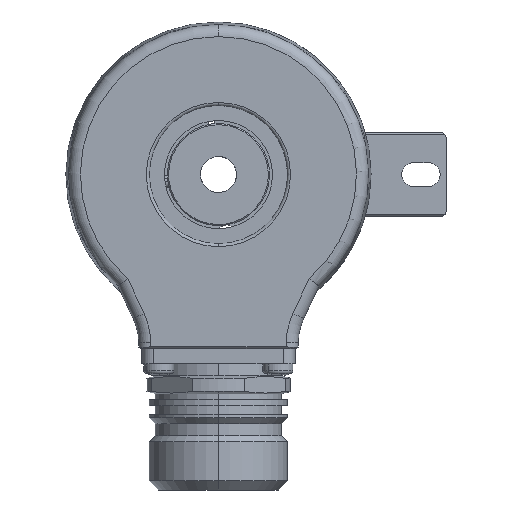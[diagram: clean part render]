
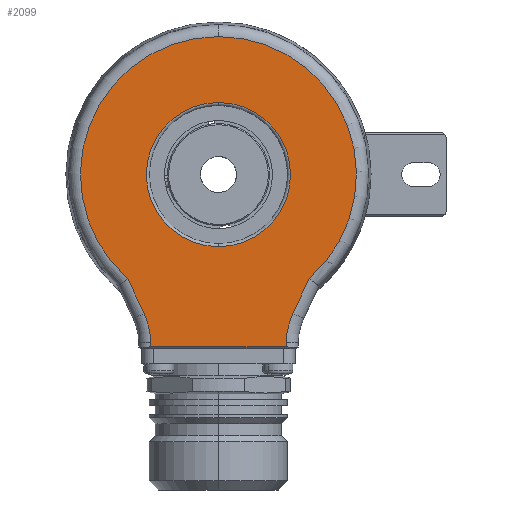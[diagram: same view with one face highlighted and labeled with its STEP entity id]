
A CAD part, left-side view. The second image highlights one B-rep face of the part: STEP entity #2099.
In plain terms, the highlighted planar face has unit normal (-1, 0, 0).
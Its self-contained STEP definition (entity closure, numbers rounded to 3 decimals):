
#1642 = EDGE_CURVE ( 'NONE', #1643, #1644, #14821, .T. ) ;
#1643 = VERTEX_POINT ( 'NONE', #14817 ) ;
#1644 = VERTEX_POINT ( 'NONE', #14816 ) ;
#1673 = VERTEX_POINT ( 'NONE', #14785 ) ;
#1675 = EDGE_CURVE ( 'NONE', #1676, #1673, #14762, .T. ) ;
#1676 = VERTEX_POINT ( 'NONE', #14757 ) ;
#1849 = EDGE_CURVE ( 'NONE', #1993, #1926, #15408, .T. ) ;
#1926 = VERTEX_POINT ( 'NONE', #15583 ) ;
#1930 = EDGE_CURVE ( 'NONE', #1926, #2024, #15581, .T. ) ;
#1947 = VERTEX_POINT ( 'NONE', #15731 ) ;
#1960 = VERTEX_POINT ( 'NONE', #15753 ) ;
#1993 = VERTEX_POINT ( 'NONE', #15738 ) ;
#1995 = EDGE_CURVE ( 'NONE', #1947, #1993, #15777, .T. ) ;
#2014 = VERTEX_POINT ( 'NONE', #15921 ) ;
#2016 = EDGE_CURVE ( 'NONE', #1644, #2014, #15919, .T. ) ;
#2023 = EDGE_CURVE ( 'NONE', #2024, #2068, #15981, .T. ) ;
#2024 = VERTEX_POINT ( 'NONE', #15977 ) ;
#2031 = EDGE_CURVE ( 'NONE', #2068, #1643, #15950, .T. ) ;
#2060 = EDGE_CURVE ( 'NONE', #2014, #1960, #11646, .T. ) ;
#2068 = VERTEX_POINT ( 'NONE', #11540 ) ;
#2097 = EDGE_CURVE ( 'NONE', #1960, #1947, #11582, .T. ) ;
#2099 = ADVANCED_FACE ( 'NONE', ( #11578, #11577 ), #11622, .F. ) ;
#2100 = EDGE_LOOP ( 'NONE', ( #2351, #2352 ) ) ;
#2101 = ORIENTED_EDGE ( 'NONE', *, *, #2016, .T. ) ;
#2102 = ORIENTED_EDGE ( 'NONE', *, *, #2060, .T. ) ;
#2351 = ORIENTED_EDGE ( 'NONE', *, *, #1675, .T. ) ;
#2352 = ORIENTED_EDGE ( 'NONE', *, *, #2353, .T. ) ;
#2353 = EDGE_CURVE ( 'NONE', #1673, #1676, #7255, .T. ) ;
#2354 = EDGE_LOOP ( 'NONE', ( #2377, #2378, #2379, #2373, #2374, #2375, #2376, #2101, #2102 ) ) ;
#2373 = ORIENTED_EDGE ( 'NONE', *, *, #1930, .T. ) ;
#2374 = ORIENTED_EDGE ( 'NONE', *, *, #2023, .T. ) ;
#2375 = ORIENTED_EDGE ( 'NONE', *, *, #2031, .T. ) ;
#2376 = ORIENTED_EDGE ( 'NONE', *, *, #1642, .T. ) ;
#2377 = ORIENTED_EDGE ( 'NONE', *, *, #2097, .T. ) ;
#2378 = ORIENTED_EDGE ( 'NONE', *, *, #1995, .T. ) ;
#2379 = ORIENTED_EDGE ( 'NONE', *, *, #1849, .T. ) ;
#7255 = CIRCLE ( 'NONE', #7299, 12. ) ;
#7296 = DIRECTION ( 'NONE',  ( 0., 0., 1. ) ) ;
#7297 = DIRECTION ( 'NONE',  ( 1., 0., 0. ) ) ;
#7298 = CARTESIAN_POINT ( 'NONE',  ( -21., 0., 0. ) ) ;
#7299 = AXIS2_PLACEMENT_3D ( 'NONE', #7298, #7297, #7296 ) ;
#11540 = CARTESIAN_POINT ( 'NONE',  ( -21., -15.091, -17.32 ) ) ;
#11577 = FACE_OUTER_BOUND ( 'NONE', #2354, .T. ) ;
#11578 = FACE_BOUND ( 'NONE', #2100, .T. ) ;
#11579 = DIRECTION ( 'NONE',  ( 0., -0.017, -1. ) ) ;
#11580 = VECTOR ( 'NONE', #11579, 1000. ) ;
#11581 = CARTESIAN_POINT ( 'NONE',  ( -21., 11.752, -0.205 ) ) ;
#11582 = LINE ( 'NONE', #11581, #11580 ) ;
#11617 = DIRECTION ( 'NONE',  ( 0., 0., 1. ) ) ;
#11618 = DIRECTION ( 'NONE',  ( 1., 0., 0. ) ) ;
#11619 = CARTESIAN_POINT ( 'NONE',  ( -21., 0., 0. ) ) ;
#11620 = AXIS2_PLACEMENT_3D ( 'NONE', #11619, #11618, #11617 ) ;
#11622 = PLANE ( 'NONE',  #11620 ) ;
#11630 = DIRECTION ( 'NONE',  ( 0., 0., 1. ) ) ;
#11631 = DIRECTION ( 'NONE',  ( 1., 0., 0. ) ) ;
#11632 = CARTESIAN_POINT ( 'NONE',  ( -21., 23.266, -28.183 ) ) ;
#11633 = AXIS2_PLACEMENT_3D ( 'NONE', #11632, #11631, #11630 ) ;
#11646 = CIRCLE ( 'NONE', #11633, 12. ) ;
#14757 = CARTESIAN_POINT ( 'NONE',  ( -21., 0., 12. ) ) ;
#14758 = DIRECTION ( 'NONE',  ( 0., 0., 1. ) ) ;
#14759 = DIRECTION ( 'NONE',  ( 1., 0., 0. ) ) ;
#14760 = CARTESIAN_POINT ( 'NONE',  ( -21., 0., 0. ) ) ;
#14761 = AXIS2_PLACEMENT_3D ( 'NONE', #14760, #14759, #14758 ) ;
#14762 = CIRCLE ( 'NONE', #14761, 12. ) ;
#14783 = CARTESIAN_POINT ( 'NONE',  ( -21., 0., 0. ) ) ;
#14785 = CARTESIAN_POINT ( 'NONE',  ( -21., 0., -12. ) ) ;
#14816 = CARTESIAN_POINT ( 'NONE',  ( -21., 15.091, -17.32 ) ) ;
#14817 = CARTESIAN_POINT ( 'NONE',  ( -21., 0., 22.972 ) ) ;
#14818 = DIRECTION ( 'NONE',  ( 0., 0., 1. ) ) ;
#14819 = DIRECTION ( 'NONE',  ( -1., 0., 0. ) ) ;
#14820 = AXIS2_PLACEMENT_3D ( 'NONE', #14783, #14819, #14818 ) ;
#14821 = CIRCLE ( 'NONE', #14820, 22.972 ) ;
#15400 = DIRECTION ( 'NONE',  ( 0., -0.017, 1. ) ) ;
#15401 = VECTOR ( 'NONE', #15400, 1000. ) ;
#15402 = CARTESIAN_POINT ( 'NONE',  ( -21., -11.752, -0.205 ) ) ;
#15408 = LINE ( 'NONE', #15402, #15401 ) ;
#15577 = DIRECTION ( 'NONE',  ( 0., 0., 1. ) ) ;
#15578 = DIRECTION ( 'NONE',  ( 1., 0., 0. ) ) ;
#15579 = CARTESIAN_POINT ( 'NONE',  ( -21., -23.266, -28.183 ) ) ;
#15580 = AXIS2_PLACEMENT_3D ( 'NONE', #15579, #15578, #15577 ) ;
#15581 = CIRCLE ( 'NONE', #15580, 12. ) ;
#15583 = CARTESIAN_POINT ( 'NONE',  ( -21., -11.268, -27.974 ) ) ;
#15731 = CARTESIAN_POINT ( 'NONE',  ( -21., 11.255, -28.695 ) ) ;
#15738 = CARTESIAN_POINT ( 'NONE',  ( -21., -11.255, -28.695 ) ) ;
#15753 = CARTESIAN_POINT ( 'NONE',  ( -21., 11.268, -27.974 ) ) ;
#15774 = DIRECTION ( 'NONE',  ( 0., -1., 0. ) ) ;
#15775 = VECTOR ( 'NONE', #15774, 1000. ) ;
#15776 = CARTESIAN_POINT ( 'NONE',  ( -21., -11.25, -28.695 ) ) ;
#15777 = LINE ( 'NONE', #15776, #15775 ) ;
#15916 = DIRECTION ( 'NONE',  ( 0., -0.423, -0.906 ) ) ;
#15917 = VECTOR ( 'NONE', #15916, 1000. ) ;
#15918 = CARTESIAN_POINT ( 'NONE',  ( -21., 12.39, -23.112 ) ) ;
#15919 = LINE ( 'NONE', #15918, #15917 ) ;
#15921 = CARTESIAN_POINT ( 'NONE',  ( -21., 12.39, -23.112 ) ) ;
#15946 = DIRECTION ( 'NONE',  ( 0., 0., 1. ) ) ;
#15947 = DIRECTION ( 'NONE',  ( -1., 0., 0. ) ) ;
#15948 = CARTESIAN_POINT ( 'NONE',  ( -21., 0., 0. ) ) ;
#15949 = AXIS2_PLACEMENT_3D ( 'NONE', #15948, #15947, #15946 ) ;
#15950 = CIRCLE ( 'NONE', #15949, 22.972 ) ;
#15977 = CARTESIAN_POINT ( 'NONE',  ( -21., -12.39, -23.112 ) ) ;
#15978 = DIRECTION ( 'NONE',  ( 0., -0.423, 0.906 ) ) ;
#15979 = VECTOR ( 'NONE', #15978, 1000. ) ;
#15980 = CARTESIAN_POINT ( 'NONE',  ( -21., -14.953, -17.615 ) ) ;
#15981 = LINE ( 'NONE', #15980, #15979 ) ;
